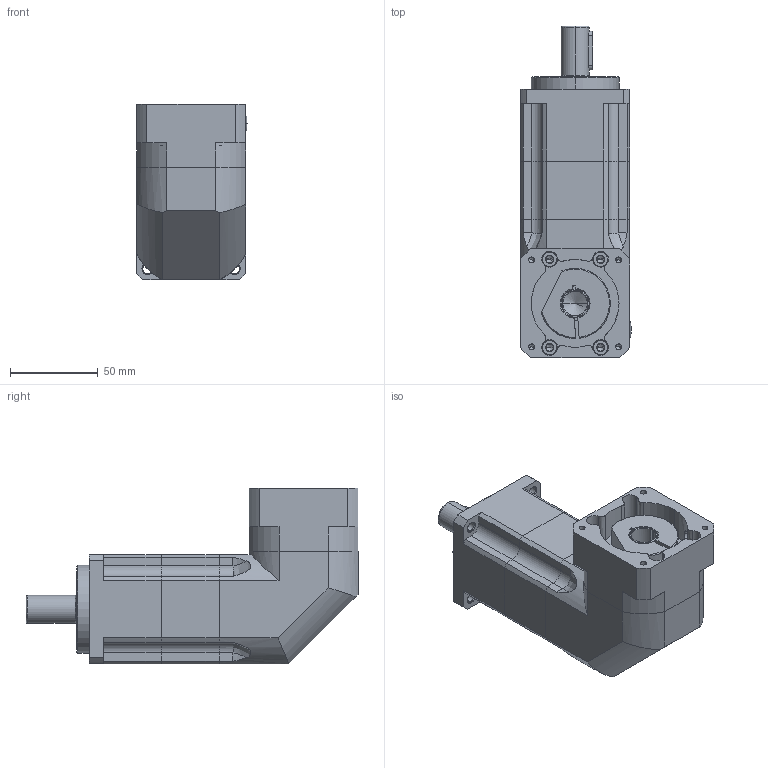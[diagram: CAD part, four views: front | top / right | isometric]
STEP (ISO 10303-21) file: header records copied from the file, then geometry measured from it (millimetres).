
FILE_DESCRIPTION (( 'STEP AP203' ), '1' );
FILE_NAME ('LBR060-(L2)-S2-P2-5070M4-S16.STEP', '2024-11-15T00:19:59', ( '微软用户' ), ( '微软中国' ), 'SwSTEP 2.0', 'SolidWorks 2022', '' );
FILE_SCHEMA (( 'CONFIG_CONTROL_DESIGN' ));
Length unit declared in the file: millimetre
Products named in the file (1): LBR060-(L2)-S2-P2-5070M4-S16
Bounding box: 63 x 189 x 100 mm (x, y, z)
Volume: 596993.1 mm3; surface area: 84896 mm2
Topology: 9 solids, 9 shells, 393 faces, 964 edges, 586 vertices
Faces by surface type: plane 146, cylinder 128, cone 83, bspline 28, torus 8
Entity records: 13797 total; most frequent: CARTESIAN_POINT 4679, ORIENTED_EDGE 1884, DIRECTION 1872, EDGE_CURVE 942, AXIS2_PLACEMENT_3D 719, VERTEX_POINT 586, VECTOR 434, LINE 434
